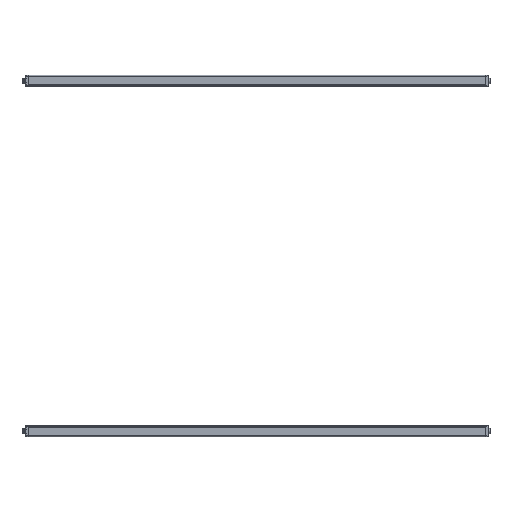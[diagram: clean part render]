
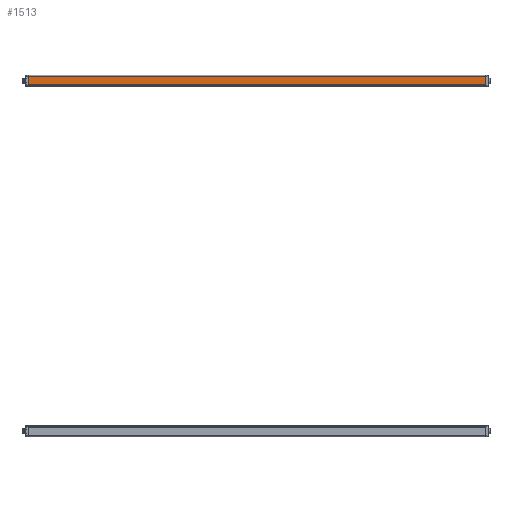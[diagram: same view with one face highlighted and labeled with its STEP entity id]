
A CAD part, front view. The second image highlights one B-rep face of the part: STEP entity #1513.
In plain terms, the highlighted planar face has unit normal (0, -1, 0).
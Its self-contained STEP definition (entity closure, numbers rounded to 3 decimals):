
#1513=ADVANCED_FACE('',(#2053),#11286,.T.);
#2053=FACE_OUTER_BOUND('',#2572,.T.);
#2572=EDGE_LOOP('',(#5820,#5821,#5822,#5823));
#3140=LINE('',#15693,#4299);
#3242=LINE('',#15925,#4401);
#3330=LINE('',#16104,#4489);
#3331=LINE('',#16105,#4490);
#4299=VECTOR('',#12603,1.);
#4401=VECTOR('',#12749,1.);
#4489=VECTOR('',#12939,1.);
#4490=VECTOR('',#12940,1.);
#5820=ORIENTED_EDGE('',*,*,#9462,.T.);
#5821=ORIENTED_EDGE('',*,*,#9671,.T.);
#5822=ORIENTED_EDGE('',*,*,#9579,.F.);
#5823=ORIENTED_EDGE('',*,*,#9672,.F.);
#8469=VERTEX_POINT('',#15692);
#8470=VERTEX_POINT('',#15694);
#8577=VERTEX_POINT('',#15924);
#8578=VERTEX_POINT('',#15926);
#9462=EDGE_CURVE('',#8470,#8469,#3140,.T.);
#9579=EDGE_CURVE('',#8577,#8578,#3242,.T.);
#9671=EDGE_CURVE('',#8469,#8578,#3330,.T.);
#9672=EDGE_CURVE('',#8470,#8577,#3331,.T.);
#11286=PLANE('',#11752);
#11752=AXIS2_PLACEMENT_3D('',#16106,#12941,#12942);
#12603=DIRECTION('',(0.,0.,-1.));
#12749=DIRECTION('',(0.,0.,-1.));
#12939=DIRECTION('',(1.,0.,0.));
#12940=DIRECTION('',(1.,0.,0.));
#12941=DIRECTION('',(0.,-1.,0.));
#12942=DIRECTION('',(0.,0.,1.));
#15692=CARTESIAN_POINT('',(0.,-15.15,-12.));
#15693=CARTESIAN_POINT('',(0.,-15.15,12.));
#15694=CARTESIAN_POINT('',(0.,-15.15,12.));
#15924=CARTESIAN_POINT('',(1340.,-15.15,12.));
#15925=CARTESIAN_POINT('',(1340.,-15.15,12.));
#15926=CARTESIAN_POINT('',(1340.,-15.15,-12.));
#16104=CARTESIAN_POINT('',(0.,-15.15,-12.));
#16105=CARTESIAN_POINT('',(0.,-15.15,12.));
#16106=CARTESIAN_POINT('',(0.,-15.15,15.65));
